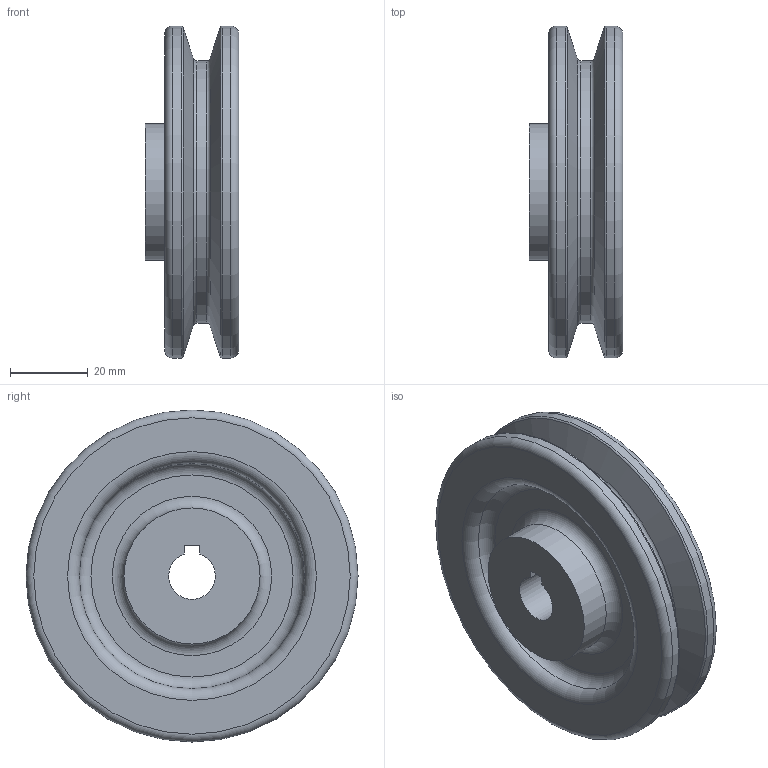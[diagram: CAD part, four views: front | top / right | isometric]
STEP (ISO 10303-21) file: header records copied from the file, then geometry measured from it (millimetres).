
FILE_DESCRIPTION(/* description */ (''),/* implementation_level */ '2;1');
FILE_NAME(/* name */ 'C:\Users\now\Desktop\390903E1025\390903E1025-벨트폴리.stp',/* time_stamp */ '2019-09-28T11:38:12+09:00',/* author */ ('now'),/* organization */ (''),/* preprocessor_version */ 'ST-DEVELOPER v15.6',/* originating_system */ 'Autodesk Inventor 2015',/* authorisation */ '');
FILE_SCHEMA (('AUTOMOTIVE_DESIGN { 1 0 10303 214 3 1 1 }'));
Length unit declared in the file: millimetre
Products named in the file (1): 390903E1025-벨트폴리
Bounding box: 24 x 85.4 x 85.4 mm (x, y, z)
Volume: 75564.4 mm3; surface area: 22313.2 mm2
Topology: 1 solids, 1 shells, 29 faces, 57 edges, 34 vertices
Faces by surface type: torus 12, plane 9, cylinder 6, cone 2
Full cylindrical faces by diameter (mm): 35 x2, 67.4 x1, 85.4 x2
Entity records: 656 total; most frequent: DIRECTION 122, CARTESIAN_POINT 98, ORIENTED_EDGE 72, AXIS2_PLACEMENT_3D 56, EDGE_LOOP 54, EDGE_CURVE 36, VERTEX_POINT 32, FACE_OUTER_BOUND 29
